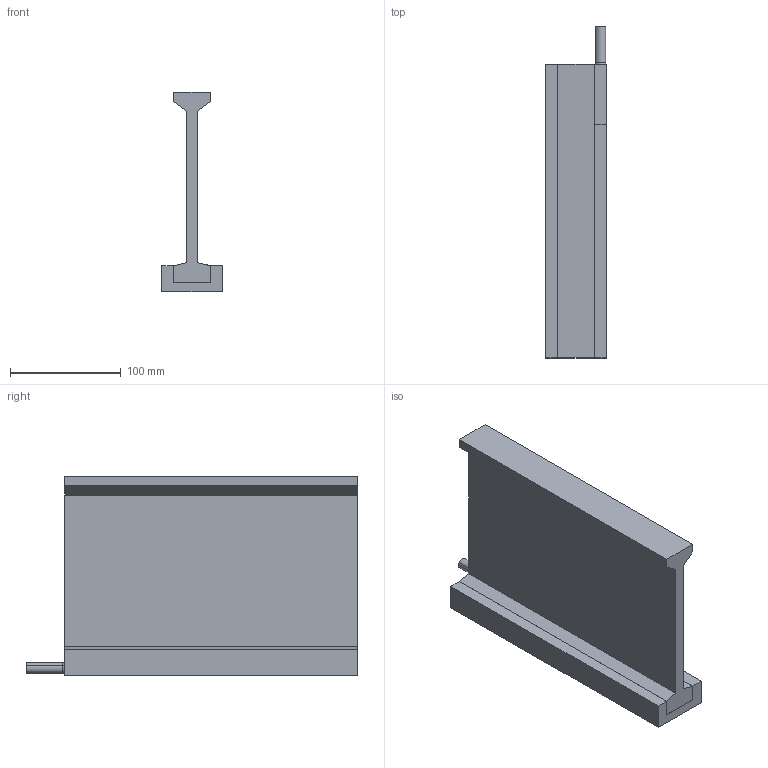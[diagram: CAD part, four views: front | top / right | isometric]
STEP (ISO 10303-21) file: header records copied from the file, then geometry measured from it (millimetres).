
FILE_DESCRIPTION (( 'STEP AP214' ), '1' );
FILE_NAME ('DX140F-C4-NH.STEP', '2021-07-16T04:15:16', ( '' ), ( '' ), 'SwSTEP 2.0', 'SolidWorks 2020', '' );
FILE_SCHEMA (( 'AUTOMOTIVE_DESIGN' ));
Length unit declared in the file: millimetre
Products named in the file (6): TIM-PC 8850FT-LV (DX140F)_C4; DX140FNH01; DX140FCX01_C4 (CUSTOMER); DX140F-C4-NH; CBL_PWR_D10; HEX SHCS M3x0.5x12(S.S)_B18.3.1M - 3 x 0.5 x 12 Hex SHCS -- 12CHX
Assembly tree (6 placements, depth 2):
  DX140F-C4-NH
    TIM-PC 8850FT-LV (DX140F)_C4
    DX140FCX01_C4 (CUSTOMER)
    DX140FNH01
    HEX SHCS M3x0.5x12(S.S)_B18.3.1M - 3 x 0.5 x 12 Hex SHCS -- 12CHX  x2
    CBL_PWR_D10
Bounding box: 55 x 300 x 180.6 mm (x, y, z)
Volume: 823490.5 mm3; surface area: 180726.3 mm2
Topology: 6 solids, 6 shells, 170 faces, 397 edges, 230 vertices
Faces by surface type: plane 76, cylinder 50, cone 38, torus 6
Entity records: 4275 total; most frequent: DIRECTION 723, CARTESIAN_POINT 660, ORIENTED_EDGE 622, EDGE_CURVE 311, AXIS2_PLACEMENT_3D 260, LINE 203, VECTOR 203, VERTEX_POINT 197
